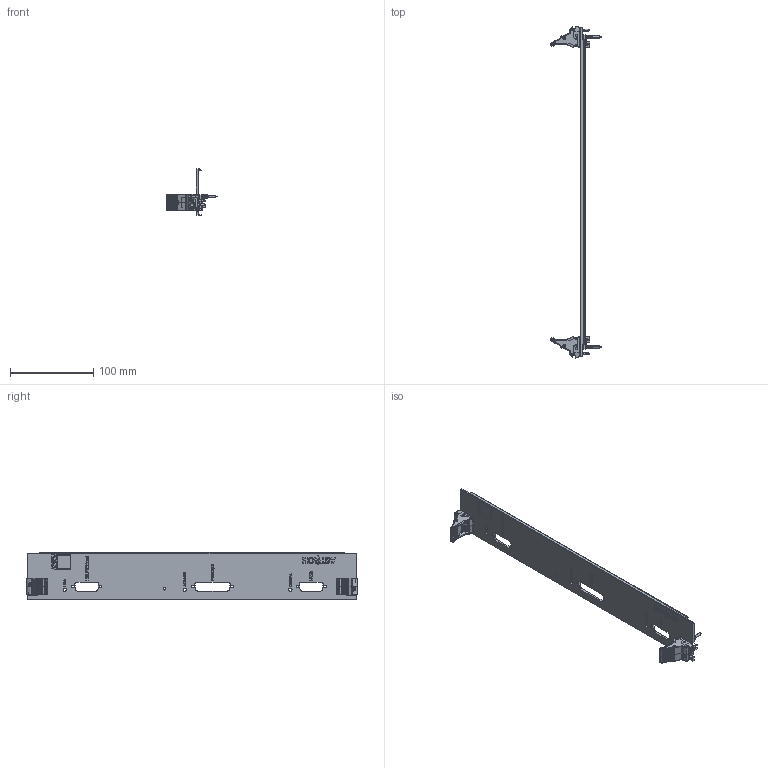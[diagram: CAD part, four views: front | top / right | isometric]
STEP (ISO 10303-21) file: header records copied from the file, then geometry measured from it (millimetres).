
FILE_DESCRIPTION(/* description */ (''),/* implementation_level */ '2;1');
FILE_NAME(/* name */ '015379_01-APSPU_assy front panel.stp',/* time_stamp */ '2023-05-30T09:07:41+02:00',/* author */ (''),/* organization */ (''),/* preprocessor_version */ 'ST-DEVELOPER v18.1',/* originating_system */ 'SIEMENS PLM Software NX 1973',/* authorisation */ '');
FILE_SCHEMA (('AUTOMOTIVE_DESIGN { 1 0 10303 214 3 1 1 1 }'));
Products named in the file (5): 014984_02-APSPU_front panel; 015239_01-Front Panel EMC_Stainless Steel_9U; 014977_01-Extractor bottom; 014976_01-Extractor top; 015379_01-APSPU_assy front panel
Assembly tree (4 placements, depth 2):
  015379_01-APSPU_assy front panel
    014976_01-Extractor top
    014977_01-Extractor bottom
    015239_01-Front Panel EMC_Stainless Steel_9U
    014984_02-APSPU_front panel
Bounding box: 60.45 x 399.12 x 56.24 mm (x, y, z)
Volume: 69393.6 mm3; surface area: 70643 mm2
Topology: 39 solids, 39 shells, 4226 faces, 10807 edges, 6634 vertices
Faces by surface type: cylinder 1765, plane 1422, bspline 880, cone 148, extrusion 11
Full cylindrical faces by diameter (mm): 2.6 x2, 3 x1, 3.1 x6, 4 x3
Entity records: 168484 total; most frequent: CARTESIAN_POINT 55831, ORIENTED_EDGE 21118, DIRECTION 18071, EDGE_CURVE 10559, VERTEX_POINT 6633, AXIS2_PLACEMENT_3D 6564, VECTOR 4943, LINE 4932
